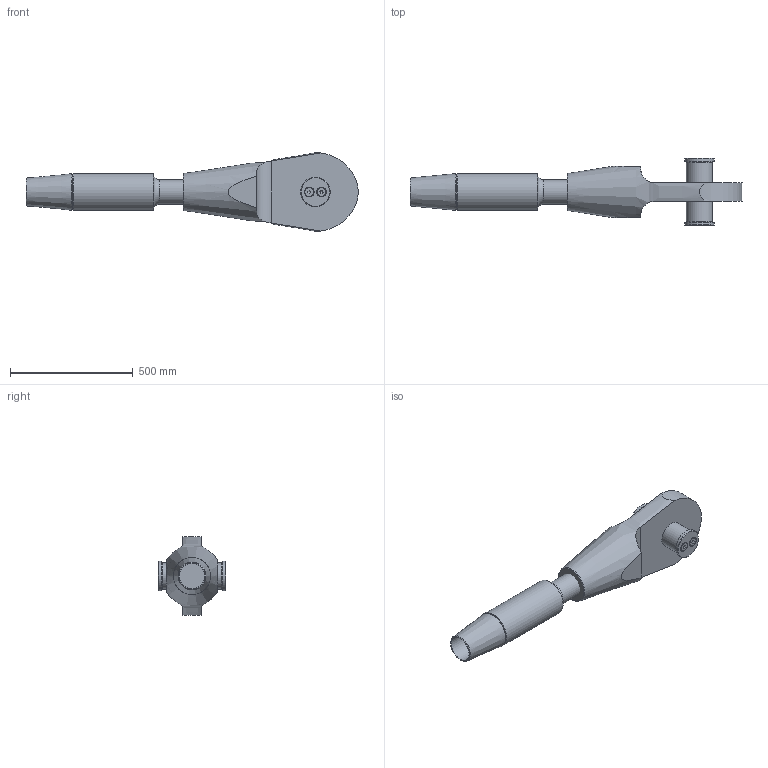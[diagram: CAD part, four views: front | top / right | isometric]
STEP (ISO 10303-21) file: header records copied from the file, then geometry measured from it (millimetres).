
FILE_DESCRIPTION(/* description */ (''),/* implementation_level */ '2;1');
FILE_NAME(/* name */ 'C:\Vault_WS\Designs\SB\01-PX\Verzinkt\ZSS\520 - Zusambau-OES-ADA\520-100-OES-ADA.stp',/* time_stamp */ '2020-10-08T09:58:49+02:00',/* author */ ('schwarz'),/* organization */ (''),/* preprocessor_version */ 'ST-DEVELOPER v18.1',/* originating_system */ 'Autodesk Inventor 2020',/* authorisation */ '');
FILE_SCHEMA (('AUTOMOTIVE_DESIGN { 1 0 10303 214 3 1 1 }'));
Length unit declared in the file: millimetre
Products named in the file (1): 520-100-OES-ADA-Kunde
Bounding box: 1352.56 x 275 x 320.74 mm (x, y, z)
Volume: 29331823.1 mm3; surface area: 1136055.8 mm2
Topology: 10 solids, 10 shells, 109 faces, 281 edges, 193 vertices
Faces by surface type: plane 50, cone 29, cylinder 28, torus 2
Full cylindrical faces by diameter (mm): 17.294 x4, 20 x4, 22 x4, 36.05 x4, 100 x1, 103 x1, 106 x1, 109 x1, 120 x2, 150 x1
Entity records: 3619 total; most frequent: CARTESIAN_POINT 766, DIRECTION 572, ORIENTED_EDGE 546, EDGE_CURVE 273, AXIS2_PLACEMENT_3D 232, VERTEX_POINT 193, EDGE_LOOP 128, CIRCLE 122
